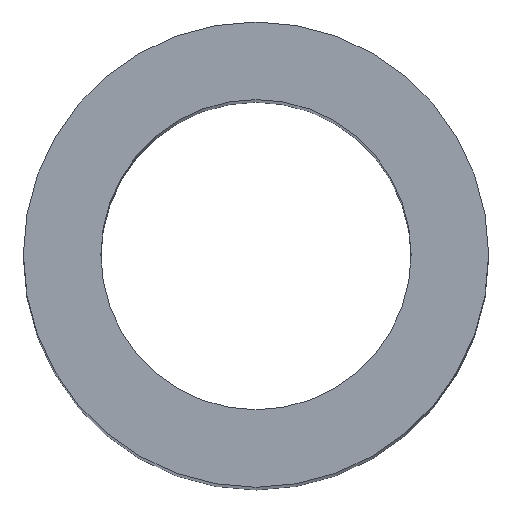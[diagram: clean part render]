
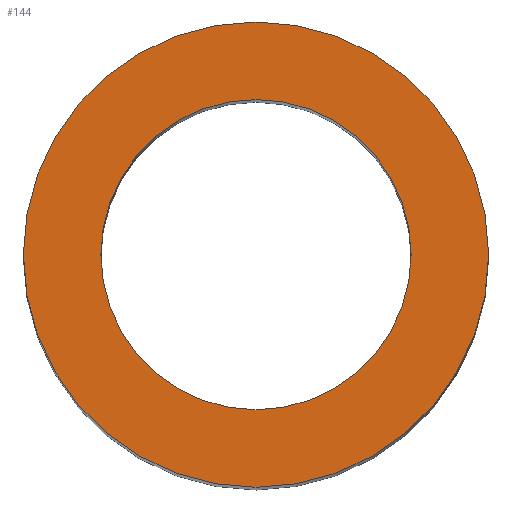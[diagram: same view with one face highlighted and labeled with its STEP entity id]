
A CAD part, top view. The second image highlights one B-rep face of the part: STEP entity #144.
In plain terms, the highlighted planar face has unit normal (0, 0, 1).
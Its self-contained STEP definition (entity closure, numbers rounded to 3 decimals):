
#24 = VERTEX_POINT('',#25);
#25 = CARTESIAN_POINT('',(-364.,30.,5.));
#32 = CYLINDRICAL_SURFACE('',#33,6.);
#33 = AXIS2_PLACEMENT_3D('',#34,#35,#36);
#34 = CARTESIAN_POINT('',(-370.,30.,-35.));
#35 = DIRECTION('',(-0.,-0.,-1.));
#36 = DIRECTION('',(1.,0.,0.));
#51 = EDGE_CURVE('',#24,#24,#52,.T.);
#52 = SURFACE_CURVE('',#53,(#58,#65),.PCURVE_S1.);
#53 = CIRCLE('',#54,6.);
#54 = AXIS2_PLACEMENT_3D('',#55,#56,#57);
#55 = CARTESIAN_POINT('',(-370.,30.,5.));
#56 = DIRECTION('',(0.,0.,1.));
#57 = DIRECTION('',(1.,0.,0.));
#58 = PCURVE('',#32,#59);
#59 = DEFINITIONAL_REPRESENTATION('',(#60),#64);
#60 = LINE('',#61,#62);
#61 = CARTESIAN_POINT('',(-0.,-40.));
#62 = VECTOR('',#63,1.);
#63 = DIRECTION('',(-1.,0.));
#64 = ( GEOMETRIC_REPRESENTATION_CONTEXT(2) 
PARAMETRIC_REPRESENTATION_CONTEXT() REPRESENTATION_CONTEXT('2D SPACE',''
  ) );
#65 = PCURVE('',#66,#71);
#66 = PLANE('',#67);
#67 = AXIS2_PLACEMENT_3D('',#68,#69,#70);
#68 = CARTESIAN_POINT('',(-370.,30.,5.));
#69 = DIRECTION('',(0.,0.,1.));
#70 = DIRECTION('',(1.,0.,-0.));
#71 = DEFINITIONAL_REPRESENTATION('',(#72),#76);
#72 = CIRCLE('',#73,6.);
#73 = AXIS2_PLACEMENT_2D('',#74,#75);
#74 = CARTESIAN_POINT('',(0.,0.));
#75 = DIRECTION('',(1.,0.));
#76 = ( GEOMETRIC_REPRESENTATION_CONTEXT(2) 
PARAMETRIC_REPRESENTATION_CONTEXT() REPRESENTATION_CONTEXT('2D SPACE',''
  ) );
#133 = CYLINDRICAL_SURFACE('',#134,4.);
#134 = AXIS2_PLACEMENT_3D('',#135,#136,#137);
#135 = CARTESIAN_POINT('',(-370.,30.,-36.));
#136 = DIRECTION('',(-0.,-0.,-1.));
#137 = DIRECTION('',(1.,0.,0.));
#144 = ADVANCED_FACE('',(#145,#148),#66,.T.);
#145 = FACE_BOUND('',#146,.T.);
#146 = EDGE_LOOP('',(#147));
#147 = ORIENTED_EDGE('',*,*,#51,.T.);
#148 = FACE_BOUND('',#149,.T.);
#149 = EDGE_LOOP('',(#150));
#150 = ORIENTED_EDGE('',*,*,#151,.T.);
#151 = EDGE_CURVE('',#152,#152,#154,.T.);
#152 = VERTEX_POINT('',#153);
#153 = CARTESIAN_POINT('',(-366.,30.,5.));
#154 = SURFACE_CURVE('',#155,(#160,#171),.PCURVE_S1.);
#155 = CIRCLE('',#156,4.);
#156 = AXIS2_PLACEMENT_3D('',#157,#158,#159);
#157 = CARTESIAN_POINT('',(-370.,30.,5.));
#158 = DIRECTION('',(0.,0.,-1.));
#159 = DIRECTION('',(1.,0.,0.));
#160 = PCURVE('',#66,#161);
#161 = DEFINITIONAL_REPRESENTATION('',(#162),#170);
#162 = ( BOUNDED_CURVE() B_SPLINE_CURVE(2,(#163,#164,#165,#166,#167,#168
,#169),.UNSPECIFIED.,.T.,.F.) B_SPLINE_CURVE_WITH_KNOTS((1,2,2,2,2,1),(
    -2.094,0.,2.094,4.189,6.283,
8.378),.UNSPECIFIED.) CURVE() GEOMETRIC_REPRESENTATION_ITEM() 
RATIONAL_B_SPLINE_CURVE((1.,0.5,1.,0.5,1.,0.5,1.)) REPRESENTATION_ITEM(
  '') );
#163 = CARTESIAN_POINT('',(4.,0.));
#164 = CARTESIAN_POINT('',(4.,-6.928));
#165 = CARTESIAN_POINT('',(-2.,-3.464));
#166 = CARTESIAN_POINT('',(-8.,0.));
#167 = CARTESIAN_POINT('',(-2.,3.464));
#168 = CARTESIAN_POINT('',(4.,6.928));
#169 = CARTESIAN_POINT('',(4.,0.));
#170 = ( GEOMETRIC_REPRESENTATION_CONTEXT(2) 
PARAMETRIC_REPRESENTATION_CONTEXT() REPRESENTATION_CONTEXT('2D SPACE',''
  ) );
#171 = PCURVE('',#133,#172);
#172 = DEFINITIONAL_REPRESENTATION('',(#173),#177);
#173 = LINE('',#174,#175);
#174 = CARTESIAN_POINT('',(-6.283,-41.));
#175 = VECTOR('',#176,1.);
#176 = DIRECTION('',(1.,-0.));
#177 = ( GEOMETRIC_REPRESENTATION_CONTEXT(2) 
PARAMETRIC_REPRESENTATION_CONTEXT() REPRESENTATION_CONTEXT('2D SPACE',''
  ) );
